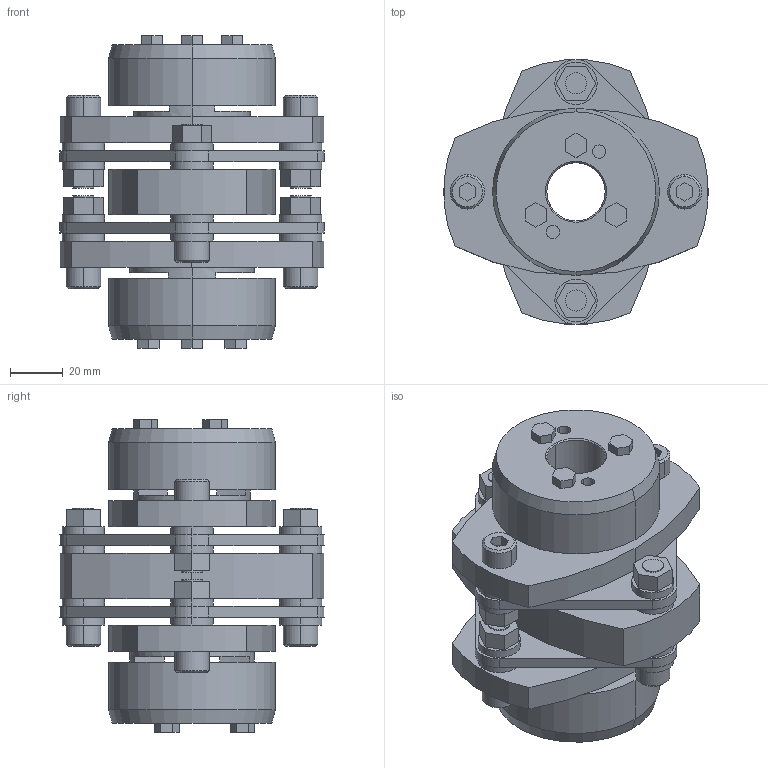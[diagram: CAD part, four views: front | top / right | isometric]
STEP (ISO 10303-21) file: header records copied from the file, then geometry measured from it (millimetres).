
FILE_DESCRIPTION((''),'2;1');
FILE_NAME('LCD-100T7-22×24.stp','2015-11-02T07:19:17',(''),(''),'AutoCAD STEP 2000i','AutoCAD 2000i',', , ');
FILE_SCHEMA(('CONFIG_CONTROL_DESIGN'));
Length unit declared in the file: millimetre
Products named in the file (6): LCD-100T7-22×25; 忣兜1; LC100T7-T025; LC100T7-T022-1; LC100T7-T022; LCD100-ITA
Assembly tree (5 placements, depth 2):
  LCD-100T7-22×25
    忣兜1
    LC100T7-T025
    LC100T7-T022-1
    LC100T7-T022
    LCD100-ITA
Bounding box: 100 x 99.93 x 118 mm (x, y, z)
Volume: 352598.2 mm3; surface area: 89222.6 mm2
Topology: 1 solids, 1 shells, 320 faces, 780 edges, 512 vertices
Faces by surface type: plane 176, cylinder 120, cone 24
Entity records: 9649 total; most frequent: DIRECTION 1712, CARTESIAN_POINT 1618, ORIENTED_EDGE 1560, EDGE_CURVE 780, AXIS2_PLACEMENT_3D 606, VERTEX_POINT 512, VECTOR 500, LINE 500
